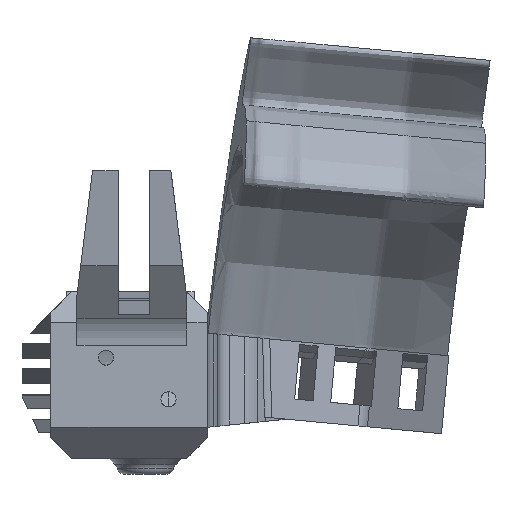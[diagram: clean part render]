
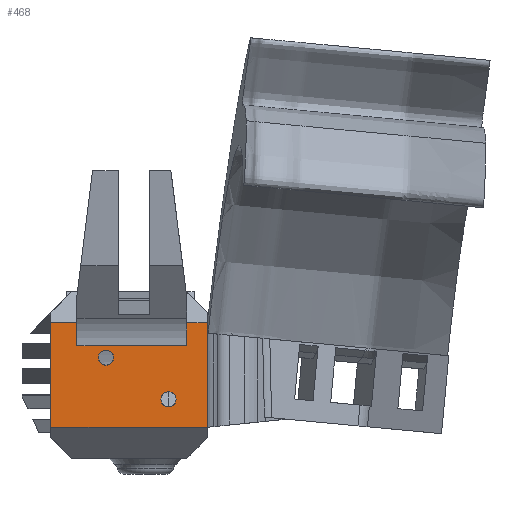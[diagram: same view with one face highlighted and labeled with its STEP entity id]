
A CAD part, left-side view. The second image highlights one B-rep face of the part: STEP entity #468.
In plain terms, the highlighted planar face has unit normal (-1, 0, 0).
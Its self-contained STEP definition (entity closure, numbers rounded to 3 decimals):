
#385=FACE_BOUND('',#1118,.T.);
#386=FACE_BOUND('',#1119,.T.);
#387=FACE_BOUND('',#1120,.T.);
#468=ADVANCED_FACE('',(#385,#386,#387),#713,.F.);
#713=PLANE('',#5013);
#1118=EDGE_LOOP('',(#2503));
#1119=EDGE_LOOP('',(#2504));
#1120=EDGE_LOOP('',(#2505,#2506,#2507,#2508,#2509,#2510,#2511,#2512));
#1387=LINE('',#9725,#1836);
#1492=LINE('',#10133,#1941);
#1493=LINE('',#10136,#1942);
#1494=LINE('',#10138,#1943);
#1495=LINE('',#10140,#1944);
#1496=LINE('',#10142,#1945);
#1497=LINE('',#10143,#1946);
#1498=LINE('',#10145,#1947);
#1836=VECTOR('',#5324,1.);
#1941=VECTOR('',#5557,1.);
#1942=VECTOR('',#5558,1.);
#1943=VECTOR('',#5559,1.);
#1944=VECTOR('',#5560,1.);
#1945=VECTOR('',#5561,1.);
#1946=VECTOR('',#5562,1.);
#1947=VECTOR('',#5563,1.);
#2503=ORIENTED_EDGE('',*,*,#4337,.T.);
#2504=ORIENTED_EDGE('',*,*,#4338,.T.);
#2505=ORIENTED_EDGE('',*,*,#4339,.T.);
#2506=ORIENTED_EDGE('',*,*,#4340,.T.);
#2507=ORIENTED_EDGE('',*,*,#4341,.T.);
#2508=ORIENTED_EDGE('',*,*,#4342,.F.);
#2509=ORIENTED_EDGE('',*,*,#4343,.T.);
#2510=ORIENTED_EDGE('',*,*,#4184,.F.);
#2511=ORIENTED_EDGE('',*,*,#4344,.T.);
#2512=ORIENTED_EDGE('',*,*,#4345,.F.);
#3718=VERTEX_POINT('',#9724);
#3719=VERTEX_POINT('',#9726);
#3846=VERTEX_POINT('',#10130);
#3847=VERTEX_POINT('',#10132);
#3848=VERTEX_POINT('',#10134);
#3849=VERTEX_POINT('',#10135);
#3850=VERTEX_POINT('',#10137);
#3851=VERTEX_POINT('',#10139);
#3852=VERTEX_POINT('',#10141);
#3853=VERTEX_POINT('',#10144);
#4184=EDGE_CURVE('',#3718,#3719,#1387,.T.);
#4337=EDGE_CURVE('',#3846,#3846,#4867,.T.);
#4338=EDGE_CURVE('',#3847,#3847,#4868,.T.);
#4339=EDGE_CURVE('',#3848,#3849,#1492,.T.);
#4340=EDGE_CURVE('',#3849,#3850,#1493,.T.);
#4341=EDGE_CURVE('',#3850,#3851,#1494,.T.);
#4342=EDGE_CURVE('',#3852,#3851,#1495,.T.);
#4343=EDGE_CURVE('',#3852,#3719,#1496,.T.);
#4344=EDGE_CURVE('',#3718,#3853,#1497,.T.);
#4345=EDGE_CURVE('',#3848,#3853,#1498,.T.);
#4867=CIRCLE('',#5011,1.45);
#4868=CIRCLE('',#5012,1.45);
#5011=AXIS2_PLACEMENT_3D('',#10129,#5553,#5554);
#5012=AXIS2_PLACEMENT_3D('',#10131,#5555,#5556);
#5013=AXIS2_PLACEMENT_3D('',#10146,#5564,#5565);
#5324=DIRECTION('',(0.,0.,-1.));
#5553=DIRECTION('',(1.,0.,0.));
#5554=DIRECTION('',(0.,0.,-1.));
#5555=DIRECTION('',(1.,0.,0.));
#5556=DIRECTION('',(0.,0.,-1.));
#5557=DIRECTION('',(0.,1.,0.));
#5558=DIRECTION('',(0.,0.,1.));
#5559=DIRECTION('',(0.,1.,0.));
#5560=DIRECTION('',(0.,0.,1.));
#5561=DIRECTION('',(0.,-1.,0.));
#5562=DIRECTION('',(0.,1.,0.));
#5563=DIRECTION('',(0.,0.,1.));
#5564=DIRECTION('',(1.,0.,0.));
#5565=DIRECTION('',(0.,0.,-1.));
#9724=CARTESIAN_POINT('',(-59.,-15.,10.));
#9725=CARTESIAN_POINT('',(-59.,-15.,16.));
#9726=CARTESIAN_POINT('',(-59.,-15.,-10.));
#10129=CARTESIAN_POINT('',(-59.,4.45,3.356));
#10130=CARTESIAN_POINT('',(-59.,4.45,1.906));
#10131=CARTESIAN_POINT('',(-59.,-7.55,-4.644));
#10132=CARTESIAN_POINT('',(-59.,-7.55,-6.094));
#10133=CARTESIAN_POINT('',(-59.,0.,5.627));
#10134=CARTESIAN_POINT('',(-59.,-11.,5.627));
#10135=CARTESIAN_POINT('',(-59.,10.,5.627));
#10136=CARTESIAN_POINT('',(-59.,10.,0.));
#10137=CARTESIAN_POINT('',(-59.,10.,10.));
#10138=CARTESIAN_POINT('',(-59.,0.,10.));
#10139=CARTESIAN_POINT('',(-59.,15.,10.));
#10140=CARTESIAN_POINT('',(-59.,15.,-16.));
#10141=CARTESIAN_POINT('',(-59.,15.,-10.));
#10142=CARTESIAN_POINT('',(-59.,0.,-10.));
#10143=CARTESIAN_POINT('',(-59.,0.,10.));
#10144=CARTESIAN_POINT('',(-59.,-11.,10.));
#10145=CARTESIAN_POINT('',(-59.,-11.,0.));
#10146=CARTESIAN_POINT('',(-59.,0.,0.));
